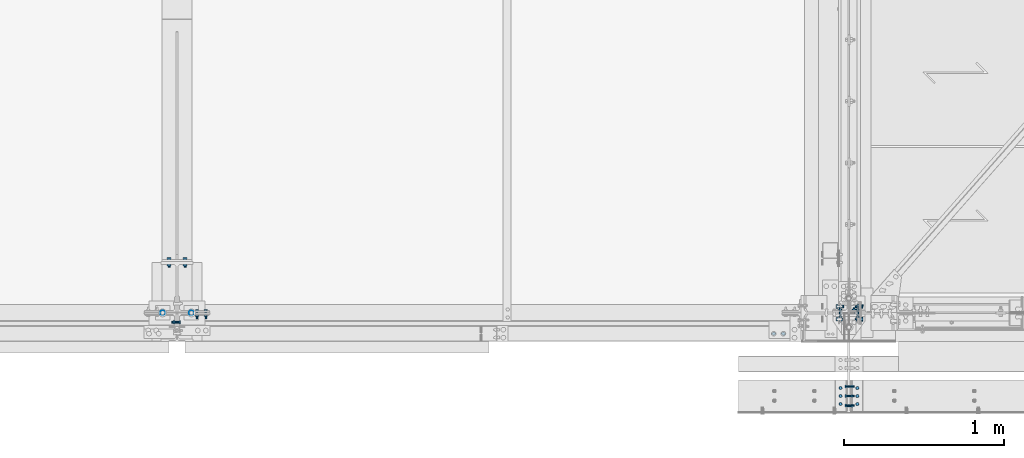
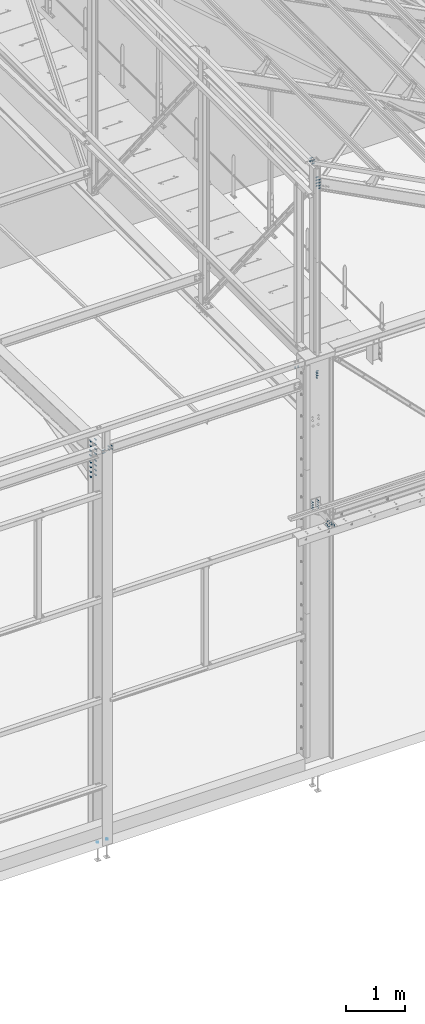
# One storey, part 144 of 362: 16 mechanical fasteners.
"""IFC2X3 building model written with IfcOpenShell, lengths in millimetres."""

import ifcopenshell
import ifcopenshell.guid

model = None  # the IFC model being written
_history = None  # IfcOwnerHistory: only IFC2X3 demands one
_inside = {}  # id of a spatial element -> (the spatial element, [elements in it])
_under = {}  # id of a project, library or spatial element -> (it, [spatial elements below it])
_declared = {}  # id of a project -> (the project, [libraries it declares])
_typed = {}  # id of a type object -> (the type object, [elements of that type])
_made_of = {}  # id of a material, layer set ... -> (it, [elements and type objects made of it])


def new_model(schema):
    """Start an empty IFC model of exactly this schema.

    Asked for "IFC4X3", IfcOpenShell would pick the latest addendum, in which some entities
    have other attributes; the version numbers below select the first issue.
    IFC2X3 requires an IfcOwnerHistory on every rooted entity: one is made here for all.
    """
    global model, _history
    if schema == "IFC4X3":
        model = ifcopenshell.file(schema_version=(4, 3, 0, 0))
    else:
        model = ifcopenshell.file(schema=schema)
    _inside.clear()
    _under.clear()
    _declared.clear()
    _typed.clear()
    _made_of.clear()
    _history = None
    if model.schema == "IFC2X3":
        org = make("IfcOrganization", Name="unknown")
        user = make(
            "IfcPersonAndOrganization",
            ThePerson=make("IfcPerson", FamilyName="unknown"),
            TheOrganization=org,
        )
        app = make(
            "IfcApplication",
            ApplicationDeveloper=org,
            Version="unknown",
            ApplicationFullName="unknown",
            ApplicationIdentifier="unknown",
        )
        _history = make(
            "IfcOwnerHistory",
            OwningUser=user,
            OwningApplication=app,
            ChangeAction="ADDED",
            CreationDate=0,
        )
    return model


def make(cls, **values):
    """One entity of the class cls with the attributes given. An attribute that is None is left unset."""
    return model.create_entity(
        cls, **{name: value for name, value in values.items() if value is not None}
    )


def rooted(cls, **values):
    """An entity with a GlobalId (a new one), such as an element, a storey or a relation."""
    return make(cls, GlobalId=ifcopenshell.guid.new(), OwnerHistory=_history, **values)


def si_unit(unit_type, name, prefix=None):
    """IfcSIUnit, for example si_unit("LENGTHUNIT", "METRE", prefix="MILLI")."""
    return make("IfcSIUnit", UnitType=unit_type, Prefix=prefix, Name=name)


def assignment(units):
    """IfcUnitAssignment: the units of a project."""
    return None if units is None else make("IfcUnitAssignment", Units=units)


def point(xyz):
    """IfcCartesianPoint."""
    return None if xyz is None else make("IfcCartesianPoint", Coordinates=xyz)


def direction(xyz):
    """IfcDirection."""
    return None if xyz is None else make("IfcDirection", DirectionRatios=xyz)


def frame(location, z_axis=None, x_axis=None):
    """IfcAxis2Placement3D, a coordinate frame: its origin and axes. An axis left out is left unset."""
    return make(
        "IfcAxis2Placement3D",
        Location=point(location),
        Axis=direction(z_axis),
        RefDirection=direction(x_axis),
    )


def frame_2d(location, x_axis=None):
    """IfcAxis2Placement2D, a coordinate frame in the plane: its origin and x axis."""
    return make(
        "IfcAxis2Placement2D", Location=point(location), RefDirection=direction(x_axis)
    )


def origin_with_axes():
    """The frame at (0, 0, 0) with the z axis (0, 0, 1) and the x axis (1, 0, 0) written out."""
    return frame((0.0, 0.0, 0.0), z_axis=(0.0, 0.0, 1.0), x_axis=(1.0, 0.0, 0.0))


def origin_2d_with_axis():
    """The frame at (0, 0) in the plane with the x axis (1, 0) written out."""
    return frame_2d((0.0, 0.0), x_axis=(1.0, 0.0))


def place(relative_to, where):
    """IfcLocalPlacement: puts the frame where relative to a parent placement (None: the world)."""
    return make(
        "IfcLocalPlacement", PlacementRelTo=relative_to, RelativePlacement=where
    )


def context(
    kind, dimensions, precision=None, world=None, true_north=None, identifier=None
):
    """IfcGeometricRepresentationContext, for example the 3D "Model" context."""
    return make(
        "IfcGeometricRepresentationContext",
        ContextIdentifier=identifier,
        ContextType=kind,
        CoordinateSpaceDimension=dimensions,
        Precision=precision,
        WorldCoordinateSystem=world,
        TrueNorth=true_north,
    )


def subcontext(parent, identifier, kind, view, scale=None):
    """IfcGeometricRepresentationSubContext, for example "Body" below "Model"."""
    return make(
        "IfcGeometricRepresentationSubContext",
        ContextIdentifier=identifier,
        ContextType=kind,
        ParentContext=parent,
        TargetScale=scale,
        TargetView=view,
    )


def project(units=None, contexts=None):
    """IfcProject with its units and contexts."""
    return rooted(
        "IfcProject",
        Name="project",
        RepresentationContexts=contexts,
        UnitsInContext=assignment(units),
    )


def spatial(cls, under=None, at=None, **own):
    """A site, building, storey or space (cls), placed at a placement, below another one or the project."""
    s = rooted(cls, ObjectPlacement=at, **own)
    if under is not None:
        _under.setdefault(under.id(), (under, []))[1].append(s)
    return s


def polyline(points):
    """IfcPolyline through the points."""
    return make("IfcPolyline", Points=[point(p) for p in points])


def circle_curve(where, radius):
    """IfcCircle in the frame where."""
    return make("IfcCircle", Position=where, Radius=radius)


def parameter(value):
    """IfcParameterValue: where a trimmed curve begins or ends, as a parameter of its basis curve."""
    return model.create_entity("IfcParameterValue", value)


def trimmed(basis, trim1, trim2, sense, master):
    """IfcTrimmedCurve: the piece of a basis curve between two trims."""
    return make(
        "IfcTrimmedCurve",
        BasisCurve=basis,
        Trim1=trim1,
        Trim2=trim2,
        SenseAgreement=sense,
        MasterRepresentation=master,
    )


def segment(curve, same_sense, transition):
    """IfcCompositeCurveSegment."""
    return make(
        "IfcCompositeCurveSegment",
        Transition=transition,
        SameSense=same_sense,
        ParentCurve=curve,
    )


def composite_curve(segments, self_intersect=None):
    """IfcCompositeCurve: segments joined end to end."""
    return make("IfcCompositeCurve", Segments=segments, SelfIntersect=self_intersect)


def profile(cls, at=None, kind="AREA", **sizes):
    """A parametric profile (cls). Its sizes go by their IFC names, for example OverallWidth=200.0."""
    return make(cls, ProfileType=kind, Position=at, **sizes)


def circle(**sizes):
    """IfcCircleProfileDef."""
    return profile("IfcCircleProfileDef", **sizes)


def outline(outer, holes=None, kind="AREA"):
    """IfcArbitraryClosedProfileDef: a profile drawn as a closed curve; with holes, ...WithVoids."""
    if holes is None:
        return make("IfcArbitraryClosedProfileDef", ProfileType=kind, OuterCurve=outer)
    return make(
        "IfcArbitraryProfileDefWithVoids",
        ProfileType=kind,
        OuterCurve=outer,
        InnerCurves=holes,
    )


def extrude(swept, where, along, depth):
    """IfcExtrudedAreaSolid: the profile swept, set in the frame where, extruded along a direction by depth."""
    return make(
        "IfcExtrudedAreaSolid",
        SweptArea=swept,
        Position=where,
        ExtrudedDirection=direction(along),
        Depth=depth,
    )


def shape(context_of_items, identifier, shape_type, items):
    """IfcShapeRepresentation: the items that make up one representation, for example the "Body"."""
    return make(
        "IfcShapeRepresentation",
        ContextOfItems=context_of_items,
        RepresentationIdentifier=identifier,
        RepresentationType=shape_type,
        Items=items,
    )


def source(mapping_origin, context_of_items, identifier, shape_type, items):
    """IfcRepresentationMap: a shape defined once, which mapped items show again and again."""
    return make(
        "IfcRepresentationMap",
        MappingOrigin=mapping_origin,
        MappedRepresentation=shape(context_of_items, identifier, shape_type, items),
    )


def transform(
    local_origin,
    x_axis=None,
    y_axis=None,
    z_axis=None,
    scale=None,
    scale2=None,
    scale3=None,
    uniform=True,
):
    """IfcCartesianTransformationOperator3D, or its non-uniform kind. x_axis, y_axis, z_axis: its Axis1, 2, 3."""
    if uniform:
        return make(
            "IfcCartesianTransformationOperator3D",
            Axis1=direction(x_axis),
            Axis2=direction(y_axis),
            LocalOrigin=point(local_origin),
            Scale=scale,
            Axis3=direction(z_axis),
        )
    return make(
        "IfcCartesianTransformationOperator3DnonUniform",
        Axis1=direction(x_axis),
        Axis2=direction(y_axis),
        LocalOrigin=point(local_origin),
        Scale=scale,
        Axis3=direction(z_axis),
        Scale2=scale2,
        Scale3=scale3,
    )


def mapped(mapping_source, mapping_target):
    """IfcMappedItem: shows the shape of a source again, moved by a transform."""
    return make(
        "IfcMappedItem", MappingSource=mapping_source, MappingTarget=mapping_target
    )


def material(Name=None, Category=None):
    """IfcMaterial."""
    return make("IfcMaterial", Name=Name, Category=Category)


def made_of(thing, what):
    """Note that an element or type object is made of a material, layer set ...; save() writes the relation."""
    if what is not None:
        _made_of.setdefault(what.id(), (what, []))[1].append(thing)
    return thing


def type_object(cls, material=None, **own):
    """A type object (cls), such as IfcWallType, which elements share."""
    return made_of(rooted(cls, **own), material)


def element(
    cls,
    number,
    at=None,
    inside=None,
    cuts=None,
    type_object=None,
    material=None,
    context=None,
    identifier="Body",
    shape_type=None,
    held_by="IfcProductDefinitionShape",
    body=None,
    shapes=None,
    **own,
):
    """One element of the class cls, such as IfcWall. Its Tag is "e" and its number.

    at: its placement. inside: the storey or other place that contains it. cuts: it is an
    opening in that element (IfcRelVoidsElement). A single representation is given by context,
    identifier, shape_type and body (its items); several are given by shapes. held_by: the class
    of the entity that holds the representations. save() writes the other relations.
    """
    e = rooted(cls, Tag="e%d" % number, ObjectPlacement=at, **own)
    if body is not None:
        shapes = [shape(context, identifier, shape_type, body)]
    if shapes is not None:
        e.Representation = make(held_by, Representations=shapes)
    if inside is not None:
        _inside.setdefault(inside.id(), (inside, []))[1].append(e)
    if cuts is not None:
        rooted(
            "IfcRelVoidsElement", RelatingBuildingElement=cuts, RelatedOpeningElement=e
        )
    if type_object is not None:
        _typed.setdefault(type_object.id(), (type_object, []))[1].append(e)
    return made_of(e, material)


def aggregate(whole, parts):
    """IfcRelAggregates: a whole, such as a stair, and the parts it consists of."""
    return rooted("IfcRelAggregates", RelatingObject=whole, RelatedObjects=parts)


def save(model, path):
    """Write the relations noted so far, then the file.

    IfcRelAggregates (storeys below a building ...), IfcRelContainedInSpatialStructure (elements
    in a storey), IfcRelDefinesByType, IfcRelAssociatesMaterial and IfcRelDeclares: one each for
    every whole, place, type object, material and project.
    """
    for whole, parts in _under.values():
        aggregate(whole, parts)
    for where, things in _inside.values():
        rooted(
            "IfcRelContainedInSpatialStructure",
            RelatedElements=things,
            RelatingStructure=where,
        )
    for kind, things in _typed.values():
        rooted("IfcRelDefinesByType", RelatedObjects=things, RelatingType=kind)
    for what, things in _made_of.values():
        rooted("IfcRelAssociatesMaterial", RelatedObjects=things, RelatingMaterial=what)
    for by, libraries in _declared.values():
        rooted("IfcRelDeclares", RelatingContext=by, RelatedDefinitions=libraries)
    model.write(path)


model = new_model("IFC2X3")

# Units and contexts
model_context = context("Model", 3, precision=1e-05, world=origin_with_axes())
body_context = subcontext(model_context, "Body", "Model", "MODEL_VIEW")
ifc_project = project(units=[si_unit("LENGTHUNIT", "METRE", prefix="MILLI"), si_unit("AREAUNIT", "SQUARE_METRE"), si_unit("VOLUMEUNIT", "CUBIC_METRE"), si_unit("MASSUNIT", "GRAM", prefix="KILO"), si_unit("TIMEUNIT", "SECOND"), si_unit("PLANEANGLEUNIT", "RADIAN"), si_unit("SOLIDANGLEUNIT", "STERADIAN"), si_unit("THERMODYNAMICTEMPERATUREUNIT", "DEGREE_CELSIUS"), si_unit("LUMINOUSINTENSITYUNIT", "LUMEN")], contexts=[model_context])

# Site, building, storey
site_placement = place(None, origin_with_axes())
site = spatial("IfcSite", under=ifc_project, at=site_placement, Name="Undefined", CompositionType="ELEMENT")
building_placement = place(site_placement, origin_with_axes())
building = spatial("IfcBuilding", under=site, at=building_placement, Name="Undefined", CompositionType="ELEMENT")
storey_placement = place(building_placement, origin_with_axes())
storey = spatial("IfcBuildingStorey", under=building, at=storey_placement, Name="Undefined", CompositionType="ELEMENT", Elevation=0.0)

# Mechanical fasteners
ifc_material_1 = material(Name="8.8-SB-ZINGUE")
mechanical_fastener_type = type_object("IfcMechanicalFastenerType", Name="Bolt assembly")
shared_shape_1 = source(origin_with_axes(), body_context, "Body", "SweptSolid", [
    extrude(circle(Radius=7.0, at=origin_2d_with_axis()), frame((0.0, -7.5, 0.0), z_axis=(0.0, 1.0, 0.0), x_axis=(1.0, 0.0, 0.0)), (0.0, 0.0, 1.0), 15.0),
    extrude(circle(Radius=7.0, at=origin_2d_with_axis()), frame((0.0, -15.4, 0.0), z_axis=(0.0, 1.0, 0.0), x_axis=(1.0, 0.0, 0.0)), (0.0, 0.0, 1.0), 8.0),
    extrude(circle(Radius=7.0, at=origin_2d_with_axis()), frame((0.0, 7.39216762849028, 0.0), z_axis=(0.0, 1.0, 0.0), x_axis=(1.0, 0.0, 0.0)), (0.0, 0.0, 1.0), 8.1),
    extrude(outline(polyline([(10.39230484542, 0.0), (5.19615242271, 9.00000000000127), (-5.19615242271, 9.00000000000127), (-10.39230484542, 0.0), (-5.19615242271, -9.00000000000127), (5.19615242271, -9.00000000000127), (10.39230484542, 0.0)])), frame((0.0, -23.42, 0.0), z_axis=(0.0, 1.0, 0.0), x_axis=(1.0, 0.0, 0.0)), (0.0, 0.0, 1.0), 7.92),
    extrude(circle(Radius=6.0, at=origin_2d_with_axis()), frame((0.0, -15.5, 0.0), z_axis=(0.0, 1.0, 0.0), x_axis=(1.0, 0.0, 0.0)), (0.0, 0.0, 1.0), 50.0),
    extrude(outline(polyline([(11.5008173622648, 0.0), (5.7504086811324, 9.96000000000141), (-5.7504086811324, 9.96000000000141), (-11.5008173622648, 0.0), (-5.7504086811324, -9.96000000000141), (5.7504086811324, -9.96000000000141), (11.5008173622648, 0.0)])), frame((0.0, 15.4921676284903, 0.0), z_axis=(0.0, 1.0, 0.0), x_axis=(1.0, 0.0, 0.0)), (0.0, 0.0, 1.0), 7.92),
])
mechanical_fastener_1_placement = place(storey_placement, frame((12680.0, -520.0, 5274.99824538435), z_axis=(0.0, -1.0, 0.0), x_axis=(0.0, 0.0, -1.0)))
element("IfcMechanicalFastener", 1, at=mechanical_fastener_1_placement, inside=storey, type_object=mechanical_fastener_type, material=ifc_material_1, Name="Bolt assembly", NominalDiameter=12.0, NominalLength=50.0, context=body_context, shape_type="MappedRepresentation", body=[
    mapped(shared_shape_1, transform((0.0, 0.0, -60.0))),
    mapped(shared_shape_1, transform((0.0, 0.0, 0.0))),
    mapped(shared_shape_1, transform((0.0, 0.0, 60.0))),
])
shared_shape_2 = source(origin_with_axes(), body_context, "Body", "SweptSolid", [
    extrude(circle(Radius=7.0, at=origin_2d_with_axis()), frame((0.0, -0.100011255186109, 0.0), z_axis=(0.0, 1.0, 0.0), x_axis=(1.0, 0.0, 0.0)), (0.0, 0.0, 1.0), 8.6),
    extrude(circle(Radius=7.0, at=origin_2d_with_axis()), frame((0.0, -7.9, 0.0), z_axis=(0.0, 1.0, 0.0), x_axis=(1.0, 0.0, 0.0)), (0.0, 0.0, 1.0), 8.0),
    extrude(outline(polyline([(10.39230484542, 0.0), (5.19615242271, 9.00000000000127), (-5.19615242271, 9.00000000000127), (-10.39230484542, 0.0), (-5.19615242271, -9.00000000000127), (5.19615242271, -9.00000000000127), (10.39230484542, 0.0)])), frame((0.0, -15.92, 0.0), z_axis=(0.0, 1.0, 0.0), x_axis=(1.0, 0.0, 0.0)), (0.0, 0.0, 1.0), 7.92),
    extrude(circle(Radius=6.0, at=origin_2d_with_axis()), frame((0.0, -8.0, 0.0), z_axis=(0.0, 1.0, 0.0), x_axis=(1.0, 0.0, 0.0)), (0.0, 0.0, 1.0), 40.0),
    extrude(outline(polyline([(11.5008173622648, 0.0), (5.7504086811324, 9.96000000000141), (-5.7504086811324, 9.96000000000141), (-11.5008173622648, 0.0), (-5.7504086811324, -9.96000000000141), (5.7504086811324, -9.96000000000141), (11.5008173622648, 0.0)])), frame((0.0, 8.49999994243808, 0.0), z_axis=(0.0, 1.0, 0.0), x_axis=(1.0, 0.0, 0.0)), (0.0, 0.0, 1.0), 7.92),
])
for number, where, z_axis, x_axis, name in (
    (2, (12732.4921676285, -520.0, 5229.99824532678), (0.0, -1.0, 0.0), (-1.0, 0.0, 0.0), "Bolt assembly"),
    (3, (12627.5, -520.0, 5229.99824532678), (0.0, 1.0, 0.0), (1.0, 0.0, 0.0), "Bolt assembly"),
):
    element("IfcMechanicalFastener", number, at=place(storey_placement, frame(where, z_axis=z_axis, x_axis=x_axis)), inside=storey, type_object=mechanical_fastener_type, material=ifc_material_1, Name=name, NominalDiameter=12.0, NominalLength=40.0, context=body_context, shape_type="MappedRepresentation", body=[
        mapped(shared_shape_2, transform((0.0, 0.0, -50.0))),
        mapped(shared_shape_2, transform((0.0, 0.0, 0.0))),
        mapped(shared_shape_2, transform((0.0, 0.0, 50.0))),
    ])
shared_shape_3 = source(origin_with_axes(), body_context, "Body", "SweptSolid", [
    extrude(circle(Radius=7.0, at=origin_2d_with_axis()), frame((0.0, 4.99855588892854, 0.0), z_axis=(0.0, 1.0, 0.0), x_axis=(1.0, 0.0, 0.0)), (0.0, 0.0, 1.0), 12.0),
    extrude(circle(Radius=7.0, at=origin_2d_with_axis()), frame((0.0, -9.90144411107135, 0.0), z_axis=(0.0, 1.0, 0.0), x_axis=(1.0, 0.0, 0.0)), (0.0, 0.0, 1.0), 15.0),
    extrude(circle(Radius=7.0, at=origin_2d_with_axis()), frame((0.0, 16.90700523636, 0.0), z_axis=(0.0, 1.0, 0.0), x_axis=(1.0, 0.0, 0.0)), (0.0, 0.0, 1.0), 10.1),
    extrude(outline(polyline([(10.39230484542, 0.0), (5.19615242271, 9.00000000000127), (-5.19615242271, 9.00000000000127), (-10.39230484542, 0.0), (-5.19615242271, -9.00000000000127), (5.19615242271, -9.00000000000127), (10.39230484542, 0.0)])), frame((0.0, -17.9214441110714, 0.0), z_axis=(0.0, 1.0, 0.0), x_axis=(1.0, 0.0, 0.0)), (0.0, 0.0, 1.0), 7.92),
    extrude(circle(Radius=6.0, at=origin_2d_with_axis()), frame((0.0, -10.0014441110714, 0.0), z_axis=(0.0, 1.0, 0.0), x_axis=(1.0, 0.0, 0.0)), (0.0, 0.0, 1.0), 60.0),
    extrude(outline(polyline([(11.5008173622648, 0.0), (5.7504086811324, 9.96000000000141), (-5.7504086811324, 9.96000000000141), (-11.5008173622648, 0.0), (-5.7504086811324, -9.96000000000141), (5.7504086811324, -9.96000000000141), (11.5008173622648, 0.0)])), frame((0.0, 27.00700523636, 0.0), z_axis=(0.0, 1.0, 0.0), x_axis=(1.0, 0.0, 0.0)), (0.0, 0.0, 1.0), 7.92),
])
mechanical_fastener_2_placement = place(storey_placement, frame((12734.9999023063, -10.9985558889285, 5290.00066228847), z_axis=(0.0, 0.0, 1.0), x_axis=(1.0, 0.0, 0.0)))
element("IfcMechanicalFastener", 4, at=mechanical_fastener_2_placement, inside=storey, type_object=mechanical_fastener_type, material=ifc_material_1, Name="Bolt assembly", NominalDiameter=12.0, NominalLength=60.0, context=body_context, shape_type="MappedRepresentation", body=[
    mapped(shared_shape_3, transform((0.0, 0.0, 25.0))),
    mapped(shared_shape_3, transform((0.0, 0.0, -25.0))),
])
mechanical_fastener_3_placement = place(storey_placement, frame((12625.0012970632, -10.9985558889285, 5290.00066228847), z_axis=(0.0, 0.0, -1.0), x_axis=(-1.0, 0.0, 0.0)))
element("IfcMechanicalFastener", 5, at=mechanical_fastener_3_placement, inside=storey, type_object=mechanical_fastener_type, material=ifc_material_1, Name="Bolt assembly", NominalDiameter=12.0, NominalLength=60.0, context=body_context, shape_type="MappedRepresentation", body=[
    mapped(shared_shape_3, transform((0.0, 0.0, -25.0))),
    mapped(shared_shape_3, transform((0.0, 0.0, 25.0))),
])
shared_shape_4 = source(origin_with_axes(), body_context, "Body", "SweptSolid", [
    extrude(circle(Radius=7.0, at=origin_2d_with_axis()), frame((0.0, 0.0, 0.0), z_axis=(0.0, 1.0, 0.0), x_axis=(1.0, 0.0, 0.0)), (0.0, 0.0, 1.0), 12.0),
    extrude(circle(Radius=7.0, at=origin_2d_with_axis()), frame((0.0, -14.899999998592, 0.0), z_axis=(0.0, 1.0, 0.0), x_axis=(1.0, 0.0, 0.0)), (0.0, 0.0, 1.0), 15.0),
    extrude(circle(Radius=7.0, at=origin_2d_with_axis()), frame((0.0, 11.9084493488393, 0.0), z_axis=(0.0, 1.0, 0.0), x_axis=(1.0, 0.0, 0.0)), (0.0, 0.0, 1.0), 10.1),
    extrude(outline(polyline([(10.39230484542, 0.0), (5.19615242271, 9.00000000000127), (-5.19615242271, 9.00000000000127), (-10.39230484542, 0.0), (-5.19615242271, -9.00000000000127), (5.19615242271, -9.00000000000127), (10.39230484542, 0.0)])), frame((0.0, -22.919999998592, 0.0), z_axis=(0.0, 1.0, 0.0), x_axis=(1.0, 0.0, 0.0)), (0.0, 0.0, 1.0), 7.92),
    extrude(circle(Radius=6.0, at=origin_2d_with_axis()), frame((0.0, -14.999999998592, 0.0), z_axis=(0.0, 1.0, 0.0), x_axis=(1.0, 0.0, 0.0)), (0.0, 0.0, 1.0), 60.0),
    extrude(outline(polyline([(11.5008173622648, 0.0), (5.7504086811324, 9.96000000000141), (-5.7504086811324, 9.96000000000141), (-11.5008173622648, 0.0), (-5.7504086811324, -9.96000000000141), (5.7504086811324, -9.96000000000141), (11.5008173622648, 0.0)])), frame((0.0, 22.0084493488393, 0.0), z_axis=(0.0, 1.0, 0.0), x_axis=(1.0, 0.0, 0.0)), (0.0, 0.0, 1.0), 7.92),
])
mechanical_fastener_4_placement = place(storey_placement, frame((12734.9999023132, -6.0000000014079, 5390.00066228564), z_axis=(0.0, 0.0, 1.0), x_axis=(1.0, 0.0, 0.0)))
element("IfcMechanicalFastener", 6, at=mechanical_fastener_4_placement, inside=storey, type_object=mechanical_fastener_type, material=ifc_material_1, Name="Bolt assembly", NominalDiameter=12.0, NominalLength=60.0, context=body_context, shape_type="MappedRepresentation", body=[
    mapped(shared_shape_4, transform((0.0, 0.0, 25.0))),
    mapped(shared_shape_4, transform((0.0, 0.0, -25.0))),
])
mechanical_fastener_5_placement = place(storey_placement, frame((12625.0012970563, -6.0000000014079, 5390.00066228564), z_axis=(0.0, 0.0, -1.0), x_axis=(-1.0, 0.0, 0.0)))
element("IfcMechanicalFastener", 7, at=mechanical_fastener_5_placement, inside=storey, type_object=mechanical_fastener_type, material=ifc_material_1, Name="Bolt assembly", NominalDiameter=12.0, NominalLength=60.0, context=body_context, shape_type="MappedRepresentation", body=[
    mapped(shared_shape_4, transform((0.0, 0.0, -25.0))),
    mapped(shared_shape_4, transform((0.0, 0.0, 25.0))),
])
shared_shape_5 = source(origin_with_axes(), body_context, "Body", "SweptSolid", [
    extrude(circle(Radius=7.0, at=origin_2d_with_axis()), frame((0.0, -5.59995888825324, 0.0), z_axis=(0.0, 1.0, 0.0), x_axis=(1.0, 0.0, 0.0)), (0.0, 0.0, 1.0), 5.6),
    extrude(circle(Radius=7.0, at=origin_2d_with_axis()), frame((0.0, 0.1, 0.0), z_axis=(0.0, 1.0, 0.0), x_axis=(1.0, 0.0, 0.0)), (0.0, 0.0, 1.0), 10.1),
    extrude(circle(Radius=7.0, at=origin_2d_with_axis()), frame((0.0, -15.7008623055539, 0.0), z_axis=(0.0, 1.0, 0.0), x_axis=(1.0, 0.0, 0.0)), (0.0, 0.0, 1.0), 10.0),
    extrude(outline(polyline([(10.39230484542, 0.0), (5.19615242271, 9.00000000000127), (-5.19615242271, 9.00000000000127), (-10.39230484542, 0.0), (-5.19615242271, -9.00000000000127), (5.19615242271, -9.00000000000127), (10.39230484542, 0.0)])), frame((0.0, -23.7208623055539, 0.0), z_axis=(0.0, 1.0, 0.0), x_axis=(1.0, 0.0, 0.0)), (0.0, 0.0, 1.0), 7.92),
    extrude(circle(Radius=6.0, at=origin_2d_with_axis()), frame((0.0, -15.8008623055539, 0.0), z_axis=(0.0, 1.0, 0.0), x_axis=(1.0, 0.0, 0.0)), (0.0, 0.0, 1.0), 50.0),
    extrude(outline(polyline([(11.5008173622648, 0.0), (5.7504086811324, 9.96000000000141), (-5.7504086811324, 9.96000000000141), (-11.5008173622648, 0.0), (-5.7504086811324, -9.96000000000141), (5.7504086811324, -9.96000000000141), (11.5008173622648, 0.0)])), frame((0.0, 10.1999997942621, 0.0), z_axis=(0.0, 1.0, 0.0), x_axis=(1.0, 0.0, 0.0)), (0.0, 0.0, 1.0), 7.92),
])
mechanical_fastener_6_placement = place(storey_placement, frame((8660.0, -2.79852357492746, 7950.04028367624), z_axis=(7.58071938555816e-11, 0.0314107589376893, 0.999506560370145), x_axis=(-1.0, 0.0, 0.0)))
element("IfcMechanicalFastener", 8, at=mechanical_fastener_6_placement, inside=storey, type_object=mechanical_fastener_type, material=ifc_material_1, Name="Bolt assembly", NominalDiameter=12.0, NominalLength=50.0, context=body_context, shape_type="MappedRepresentation", body=[
    mapped(shared_shape_5, transform((0.0, 0.0, -30.0))),
    mapped(shared_shape_5, transform((55.0000000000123, 3.45607986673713e-11, -30.0000000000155))),
    mapped(shared_shape_5, transform((0.0, 0.0, 30.0))),
    mapped(shared_shape_5, transform((54.9999999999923, 3.45607986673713e-11, 29.9999999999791))),
])
shared_shape_6 = source(origin_with_axes(), body_context, "Body", "SweptSolid", [
    extrude(circle(Radius=9.0, at=origin_2d_with_axis()), frame((0.0, -0.100011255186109, 0.0), z_axis=(0.0, 1.0, 0.0), x_axis=(1.0, 0.0, 0.0)), (0.0, 0.0, 1.0), 16.1),
    extrude(circle(Radius=9.0, at=origin_2d_with_axis()), frame((0.0, -14.899999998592, 0.0), z_axis=(0.0, 1.0, 0.0), x_axis=(1.0, 0.0, 0.0)), (0.0, 0.0, 1.0), 15.0),
    extrude(outline(polyline([(13.85640646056, 0.0), (6.92820323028, 12.0000000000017), (-6.92820323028, 12.0000000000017), (-13.85640646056, 0.0), (-6.92820323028, -12.0000000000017), (6.92820323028, -12.0000000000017), (13.85640646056, 0.0)])), frame((0.0, -25.56, 0.0), z_axis=(0.0, 1.0, 0.0), x_axis=(1.0, 0.0, 0.0)), (0.0, 0.0, 1.0), 10.56),
    extrude(circle(Radius=8.0, at=origin_2d_with_axis()), frame((0.0, -14.999999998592, 0.0), z_axis=(0.0, 1.0, 0.0), x_axis=(1.0, 0.0, 0.0)), (0.0, 0.0, 1.0), 50.0),
    extrude(outline(polyline([(15.3344231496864, 0.0), (7.6672115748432, 13.2800000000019), (-7.6672115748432, 13.2800000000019), (-15.3344231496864, 0.0), (-7.6672115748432, -13.2800000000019), (7.6672115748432, -13.2800000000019), (15.3344231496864, 0.0)])), frame((0.0, 15.9999999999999, 0.0), z_axis=(0.0, 1.0, 0.0), x_axis=(1.0, 0.0, 0.0)), (0.0, 0.0, 1.0), 10.56),
])
mechanical_fastener_7_placement = place(storey_placement, frame((8480.0, 320.0, 7959.93865805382), z_axis=(-1.0, 0.0, 0.0), x_axis=(0.0, 0.0, -1.0)))
element("IfcMechanicalFastener", 9, at=mechanical_fastener_7_placement, inside=storey, type_object=mechanical_fastener_type, material=ifc_material_1, Name="Bolt assembly", NominalDiameter=16.0, NominalLength=50.0, context=body_context, shape_type="MappedRepresentation", body=[
    mapped(shared_shape_6, transform((0.0, 0.0, -50.0))),
    mapped(shared_shape_6, transform((100.0, 0.0, -50.0))),
    mapped(shared_shape_6, transform((200.0, 0.0, -50.0))),
    mapped(shared_shape_6, transform((300.0, 0.0, -50.0))),
    mapped(shared_shape_6, transform((440.0, 0.0, -50.0))),
    mapped(shared_shape_6, transform((540.0, 0.0, -50.0))),
    mapped(shared_shape_6, transform((640.0, 0.0, -50.0))),
    mapped(shared_shape_6, transform((740.0, 0.0, -50.0))),
    mapped(shared_shape_6, transform((0.0, 0.0, 50.0))),
    mapped(shared_shape_6, transform((100.0, 0.0, 50.0))),
    mapped(shared_shape_6, transform((200.0, 0.0, 50.0))),
    mapped(shared_shape_6, transform((300.0, 0.0, 50.0))),
    mapped(shared_shape_6, transform((440.0, 0.0, 50.0))),
    mapped(shared_shape_6, transform((540.0, 0.0, 50.0))),
    mapped(shared_shape_6, transform((640.0, 0.0, 50.0))),
    mapped(shared_shape_6, transform((740.0, 0.0, 50.0))),
])
shared_shape_7 = source(origin_with_axes(), body_context, "Body", "SweptSolid", [
    extrude(circle(Radius=7.0, at=origin_2d_with_axis()), frame((0.0, -15.9000004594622, 0.0), z_axis=(0.0, 1.0, 0.0), x_axis=(1.0, 0.0, 0.0)), (0.0, 0.0, 1.0), 12.0),
    extrude(circle(Radius=7.0, at=origin_2d_with_axis()), frame((0.0, -0.100011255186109, 0.0), z_axis=(0.0, 1.0, 0.0), x_axis=(1.0, 0.0, 0.0)), (0.0, 0.0, 1.0), 6.1),
    extrude(outline(polyline([(10.39230484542, 0.0), (5.19615242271, 9.00000000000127), (-5.19615242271, 9.00000000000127), (-10.39230484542, 0.0), (-5.19615242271, -9.00000000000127), (5.19615242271, -9.00000000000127), (10.39230484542, 0.0)])), frame((0.0, -23.9200004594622, 0.0), z_axis=(0.0, 1.0, 0.0), x_axis=(1.0, 0.0, 0.0)), (0.0, 0.0, 1.0), 7.92),
    extrude(circle(Radius=6.0, at=origin_2d_with_axis()), frame((0.0, -16.0000004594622, 0.0), z_axis=(0.0, 1.0, 0.0), x_axis=(1.0, 0.0, 0.0)), (0.0, 0.0, 1.0), 40.0),
    extrude(outline(polyline([(11.5008173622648, 0.0), (5.7504086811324, 9.96000000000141), (-5.7504086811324, 9.96000000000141), (-11.5008173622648, 0.0), (-5.7504086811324, -9.96000000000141), (5.7504086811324, -9.96000000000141), (11.5008173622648, 0.0)])), frame((0.0, 6.0, 0.0), z_axis=(0.0, 1.0, 0.0), x_axis=(1.0, 0.0, 0.0)), (0.0, 0.0, 1.0), 7.92),
])
mechanical_fastener_8_placement = place(storey_placement, frame((12711.5083410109, 10.0000004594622, 8025.00000000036), z_axis=(0.0, 0.0, 1.0), x_axis=(1.0, 0.0, 0.0)))
element("IfcMechanicalFastener", 10, at=mechanical_fastener_8_placement, inside=storey, type_object=mechanical_fastener_type, material=ifc_material_1, Name="Bolt assembly", NominalDiameter=12.0, NominalLength=40.0, context=body_context, shape_type="MappedRepresentation", body=[
    mapped(shared_shape_7, transform((0.0, 0.0, -50.0))),
    mapped(shared_shape_7, transform((0.0, 0.0, 0.0))),
    mapped(shared_shape_7, transform((0.0, 0.0, 50.0))),
])
shared_shape_8 = source(origin_with_axes(), body_context, "Body", "SweptSolid", [
    extrude(circle(Radius=7.0, at=origin_2d_with_axis()), frame((0.0, -0.100011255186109, 0.0), z_axis=(0.0, 1.0, 0.0), x_axis=(1.0, 0.0, 0.0)), (0.0, 0.0, 1.0), 5.1),
    extrude(circle(Radius=7.0, at=origin_2d_with_axis()), frame((0.0, -5.8999542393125, 0.0), z_axis=(0.0, 1.0, 0.0), x_axis=(1.0, 0.0, 0.0)), (0.0, 0.0, 1.0), 6.0),
    extrude(outline(polyline([(10.39230484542, 0.0), (5.19615242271, 9.00000000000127), (-5.19615242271, 9.00000000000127), (-10.39230484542, 0.0), (-5.19615242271, -9.00000000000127), (5.19615242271, -9.00000000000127), (10.39230484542, 0.0)])), frame((0.0, -13.9199542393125, 0.0), z_axis=(0.0, 1.0, 0.0), x_axis=(1.0, 0.0, 0.0)), (0.0, 0.0, 1.0), 7.92),
    extrude(circle(Radius=6.0, at=origin_2d_with_axis()), frame((0.0, -5.9999542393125, 0.0), z_axis=(0.0, 1.0, 0.0), x_axis=(1.0, 0.0, 0.0)), (0.0, 0.0, 1.0), 30.0),
    extrude(outline(polyline([(11.5008173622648, 0.0), (5.7504086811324, 9.96000000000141), (-5.7504086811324, 9.96000000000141), (-11.5008173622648, 0.0), (-5.7504086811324, -9.96000000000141), (5.7504086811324, -9.96000000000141), (11.5008173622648, 0.0)])), frame((0.0, 5.0, 0.0), z_axis=(0.0, 1.0, 0.0), x_axis=(1.0, 0.0, 0.0)), (0.0, 0.0, 1.0), 7.92),
])
mechanical_fastener_9_placement = place(storey_placement, frame((12746.5083408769, 45.0000004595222, 8025.00000000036), z_axis=(0.0, 0.0, 1.0), x_axis=(0.0, -1.0, 0.0)))
element("IfcMechanicalFastener", 11, at=mechanical_fastener_9_placement, inside=storey, type_object=mechanical_fastener_type, material=ifc_material_1, Name="Bolt assembly", NominalDiameter=12.0, NominalLength=30.0, context=body_context, shape_type="MappedRepresentation", body=[
    mapped(shared_shape_8, transform((0.0, 0.0, -50.0))),
    mapped(shared_shape_8, transform((0.0, 0.0, 0.0))),
    mapped(shared_shape_8, transform((0.0, 0.0, 50.0))),
])
shared_shape_9 = source(origin_with_axes(), body_context, "Body", "SweptSolid", [
    extrude(circle(Radius=7.0, at=origin_2d_with_axis()), frame((0.0, -3.90127693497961, 0.0), z_axis=(0.0, 1.0, 0.0), x_axis=(1.0, 0.0, 0.0)), (0.0, 0.0, 1.0), 4.0),
    extrude(outline(composite_curve([segment(polyline([(-7.0, 7.0), (7.0, 7.0)]), True, "CONTINUOUS"), segment(trimmed(circle_curve(frame_2d((7.0, 0.0), x_axis=(0.0, 1.0)), 7.0), [parameter(0.0)], [parameter(3.14159265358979)], False, "PARAMETER"), True, "CONTINUOUS"), segment(polyline([(7.0, -7.0), (-7.0, -7.0)]), True, "CONTINUOUS"), segment(trimmed(circle_curve(frame_2d((-7.0, 0.0), x_axis=(0.0, -1.0)), 7.0), [parameter(0.0)], [parameter(3.14159265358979)], False, "PARAMETER"), True, "DISCONTINUOUS")], self_intersect=False)), frame((0.0, -0.100011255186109, 0.0), z_axis=(0.0, 1.0, 0.0), x_axis=(1.0, 0.0, 0.0)), (0.0, 0.0, 1.0), 10.1),
    extrude(outline(polyline([(10.39230484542, 0.0), (5.19615242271, 9.00000000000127), (-5.19615242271, 9.00000000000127), (-10.39230484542, 0.0), (-5.19615242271, -9.00000000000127), (5.19615242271, -9.00000000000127), (10.39230484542, 0.0)])), frame((0.0, -11.9212769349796, 0.0), z_axis=(0.0, 1.0, 0.0), x_axis=(1.0, 0.0, 0.0)), (0.0, 0.0, 1.0), 7.92),
    extrude(circle(Radius=6.0, at=origin_2d_with_axis()), frame((0.0, -4.00127693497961, 0.0), z_axis=(0.0, 1.0, 0.0), x_axis=(1.0, 0.0, 0.0)), (0.0, 0.0, 1.0), 40.0),
    extrude(circle(Radius=10.8, at=origin_2d_with_axis()), frame((0.0, 10.0000000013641, 0.0), z_axis=(0.0, 1.0, 0.0), x_axis=(1.0, 0.0, 0.0)), (0.0, 0.0, 1.0), 3.96),
    extrude(outline(polyline([(11.5008173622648, 0.0), (5.7504086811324, 9.96000000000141), (-5.7504086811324, 9.96000000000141), (-11.5008173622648, 0.0), (-5.7504086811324, -9.96000000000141), (5.7504086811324, -9.96000000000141), (11.5008173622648, 0.0)])), frame((0.0, 13.96, 0.0), z_axis=(0.0, 1.0, 0.0), x_axis=(1.0, 0.0, 0.0)), (0.0, 0.0, 1.0), 7.92),
])
mechanical_fastener_10_placement = place(storey_placement, frame((12210.0111062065, -130.000005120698, 8449.99872306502), z_axis=(0.0, 1.0, 0.0), x_axis=(1.0, 0.0, 0.0)))
element("IfcMechanicalFastener", 12, at=mechanical_fastener_10_placement, inside=storey, type_object=mechanical_fastener_type, material=ifc_material_1, Name="Bolt assembly", NominalDiameter=12.0, NominalLength=40.0, context=body_context, shape_type="MappedRepresentation", body=[
    mapped(shared_shape_9, transform((0.0, 0.0, 0.0))),
    mapped(shared_shape_9, transform((60.0, 0.0, 0.0))),
])
shared_shape_10 = source(origin_with_axes(), body_context, "Body", "SweptSolid", [
    extrude(circle(Radius=9.0, at=origin_2d_with_axis()), frame((0.0, -0.091713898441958, 0.0), z_axis=(0.0, 1.0, 0.0), x_axis=(1.0, 0.0, 0.0)), (0.0, 0.0, 1.0), 8.6),
    extrude(circle(Radius=9.0, at=origin_2d_with_axis()), frame((0.0, -9.89171439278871, 0.0), z_axis=(0.0, 1.0, 0.0), x_axis=(1.0, 0.0, 0.0)), (0.0, 0.0, 1.0), 10.0),
    extrude(outline(polyline([(13.85640646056, 0.0), (6.92820323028, 12.0000000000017), (-6.92820323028, 12.0000000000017), (-13.85640646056, 0.0), (-6.92820323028, -12.0000000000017), (6.92820323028, -12.0000000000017), (13.85640646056, 0.0)])), frame((0.0, -20.5517143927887, 0.0), z_axis=(0.0, 1.0, 0.0), x_axis=(1.0, 0.0, 0.0)), (0.0, 0.0, 1.0), 10.56),
    extrude(circle(Radius=8.0, at=origin_2d_with_axis()), frame((0.0, -9.99171439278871, 0.0), z_axis=(0.0, 1.0, 0.0), x_axis=(1.0, 0.0, 0.0)), (0.0, 0.0, 1.0), 40.0),
    extrude(outline(polyline([(15.3344231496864, 0.0), (7.6672115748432, 13.2800000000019), (-7.6672115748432, 13.2800000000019), (-15.3344231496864, 0.0), (-7.6672115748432, -13.2800000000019), (7.6672115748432, -13.2800000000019), (15.3344231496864, 0.0)])), frame((0.0, 8.50828610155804, 0.0), z_axis=(0.0, 1.0, 0.0), x_axis=(1.0, 0.0, 0.0)), (0.0, 0.0, 1.0), 10.56),
])
mechanical_fastener_11_placement = place(storey_placement, frame((12746.5082856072, -40.0, 12031.1720690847), z_axis=(0.0, 0.0, 1.0), x_axis=(0.0, 1.0, 0.0)))
element("IfcMechanicalFastener", 13, at=mechanical_fastener_11_placement, inside=storey, type_object=mechanical_fastener_type, material=ifc_material_1, Name="Bolt assembly", NominalDiameter=16.0, NominalLength=40.0, context=body_context, shape_type="MappedRepresentation", body=[
    mapped(shared_shape_10, transform((-8.00355337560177e-11, 1.57342583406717e-10, -90.000000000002))),
    mapped(shared_shape_10, transform((80.0, 0.0, -90.0))),
    mapped(shared_shape_10, transform((0.0, 0.0, -30.0))),
    mapped(shared_shape_10, transform((80.0, 0.0, -30.0))),
    mapped(shared_shape_10, transform((0.0, 0.0, 30.0))),
    mapped(shared_shape_10, transform((80.0, 0.0, 30.0))),
    mapped(shared_shape_10, transform((8.36735125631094e-11, -1.5825207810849e-10, 90.0))),
    mapped(shared_shape_10, transform((80.0, 0.0, 90.0))),
])
shared_shape_11 = source(origin_with_axes(), body_context, "Body", "SweptSolid", [
    extrude(circle(Radius=9.0, at=origin_2d_with_axis()), frame((0.0, -0.100011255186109, 0.0), z_axis=(0.0, 1.0, 0.0), x_axis=(1.0, 0.0, 0.0)), (0.0, 0.0, 1.0), 8.6),
    extrude(circle(Radius=9.0, at=origin_2d_with_axis()), frame((0.0, -2.9, 0.0), z_axis=(0.0, 1.0, 0.0), x_axis=(1.0, 0.0, 0.0)), (0.0, 0.0, 1.0), 3.0),
    extrude(outline(polyline([(13.85640646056, 0.0), (6.92820323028, 12.0000000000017), (-6.92820323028, 12.0000000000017), (-13.85640646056, 0.0), (-6.92820323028, -12.0000000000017), (6.92820323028, -12.0000000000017), (13.85640646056, 0.0)])), frame((0.0, -13.56, 0.0), z_axis=(0.0, 1.0, 0.0), x_axis=(1.0, 0.0, 0.0)), (0.0, 0.0, 1.0), 10.56),
    extrude(circle(Radius=8.0, at=origin_2d_with_axis()), frame((0.0, -2.99999932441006, 0.0), z_axis=(0.0, 1.0, 0.0), x_axis=(1.0, 0.0, 0.0)), (0.0, 0.0, 1.0), 40.0),
    extrude(outline(polyline([(15.3344231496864, 0.0), (7.6672115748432, 13.2800000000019), (-7.6672115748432, 13.2800000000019), (-15.3344231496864, 0.0), (-7.6672115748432, -13.2800000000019), (7.6672115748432, -13.2800000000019), (15.3344231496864, 0.0)])), frame((0.0, 8.49999994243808, 0.0), z_axis=(0.0, 1.0, 0.0), x_axis=(1.0, 0.0, 0.0)), (0.0, 0.0, 1.0), 10.56),
])
mechanical_fastener_12_placement = place(storey_placement, frame((12613.5000000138, 0.0, 12503.8320725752), z_axis=(0.0, 1.0, 0.0), x_axis=(0.0, 0.0, 1.0)))
element("IfcMechanicalFastener", 14, at=mechanical_fastener_12_placement, inside=storey, type_object=mechanical_fastener_type, material=ifc_material_1, Name="Bolt assembly", NominalDiameter=16.0, NominalLength=40.0, context=body_context, shape_type="MappedRepresentation", body=[
    mapped(shared_shape_11, transform((0.0, 0.0, -40.0))),
    mapped(shared_shape_11, transform((60.0, 0.0, -40.0))),
    mapped(shared_shape_11, transform((0.0, 0.0, 40.0))),
    mapped(shared_shape_11, transform((60.0, 0.0, 40.0))),
])
shared_shape_12 = source(origin_with_axes(), body_context, "Body", "SweptSolid", [
    extrude(circle(Radius=7.0, at=origin_2d_with_axis()), frame((0.0, -5.1000000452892, 0.0), z_axis=(0.0, 1.0, 0.0), x_axis=(1.0, 0.0, 0.0)), (0.0, 0.0, 1.0), 10.2),
    extrude(circle(Radius=7.0, at=origin_2d_with_axis()), frame((0.0, -14.899999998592, 0.0), z_axis=(0.0, 1.0, 0.0), x_axis=(1.0, 0.0, 0.0)), (0.0, 0.0, 1.0), 10.0),
    extrude(circle(Radius=7.0, at=origin_2d_with_axis()), frame((0.0, 4.9000000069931, 0.0), z_axis=(0.0, 1.0, 0.0), x_axis=(1.0, 0.0, 0.0)), (0.0, 0.0, 1.0), 10.1),
    extrude(outline(polyline([(10.39230484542, 0.0), (5.19615242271, 9.00000000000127), (-5.19615242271, 9.00000000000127), (-10.39230484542, 0.0), (-5.19615242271, -9.00000000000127), (5.19615242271, -9.00000000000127), (10.39230484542, 0.0)])), frame((0.0, -22.919999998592, 0.0), z_axis=(0.0, 1.0, 0.0), x_axis=(1.0, 0.0, 0.0)), (0.0, 0.0, 1.0), 7.92),
    extrude(circle(Radius=6.0, at=origin_2d_with_axis()), frame((0.0, -14.999999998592, 0.0), z_axis=(0.0, 1.0, 0.0), x_axis=(1.0, 0.0, 0.0)), (0.0, 0.0, 1.0), 50.0),
    extrude(outline(polyline([(11.5008173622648, 0.0), (5.7504086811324, 9.96000000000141), (-5.7504086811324, 9.96000000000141), (-11.5008173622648, 0.0), (-5.7504086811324, -9.96000000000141), (5.7504086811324, -9.96000000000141), (11.5008173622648, 0.0)])), frame((0.0, 15.0000000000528, 0.0), z_axis=(0.0, 1.0, 0.0), x_axis=(1.0, 0.0, 0.0)), (0.0, 0.0, 1.0), 7.92),
])
mechanical_fastener_13_placement = place(storey_placement, frame((8480.0, -57.9712850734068, 7951.77417755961), z_axis=(7.58071938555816e-11, 0.0314107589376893, 0.999506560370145), x_axis=(3.14103090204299e-11, 0.999506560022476, -0.0314107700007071)))
element("IfcMechanicalFastener", 15, at=mechanical_fastener_13_placement, inside=storey, type_object=mechanical_fastener_type, material=ifc_material_1, Name="Bolt assembly", NominalDiameter=12.0, NominalLength=50.0, context=body_context, shape_type="MappedRepresentation", body=[
    mapped(shared_shape_12, transform((0.0, 0.0, -30.0))),
    mapped(shared_shape_12, transform((0.0, 0.0, 30.0))),
])
ifc_material_2 = material(Name="6.8")
shared_shape_13 = source(origin_with_axes(), body_context, "Body", "SweptSolid", [
    extrude(circle(Radius=13.0, at=origin_2d_with_axis()), frame((0.0, 0.0, 0.0), z_axis=(0.0, 1.0, 0.0), x_axis=(1.0, 0.0, 0.0)), (0.0, 0.0, 1.0), 10.1),
])
mechanical_fastener_14_placement = place(storey_placement, frame((8480.00000007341, 0.0, -200.0), z_axis=(-1.0, 0.0, 0.0), x_axis=(0.0, 1.0, 0.0)))
element("IfcMechanicalFastener", 16, at=mechanical_fastener_14_placement, inside=storey, type_object=mechanical_fastener_type, material=ifc_material_2, Name="Bolt assembly", NominalDiameter=24.0, NominalLength=10.0, context=body_context, shape_type="MappedRepresentation", body=[
    mapped(shared_shape_13, transform((-8.00355337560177e-11, 1.57342583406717e-10, -90.000000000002))),
    mapped(shared_shape_13, transform((8.36735125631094e-11, -1.5825207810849e-10, 90.0))),
])

save(model, "model.ifc")
